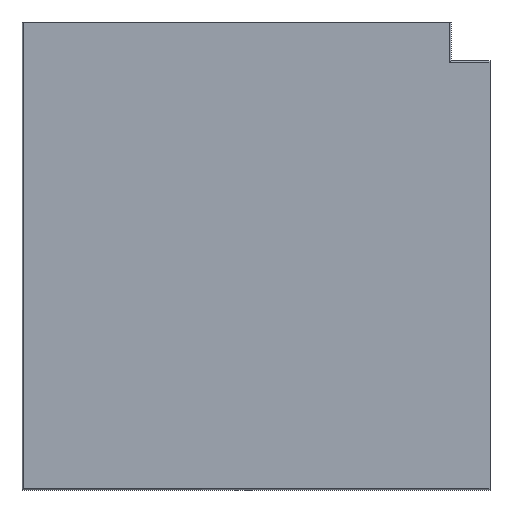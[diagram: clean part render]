
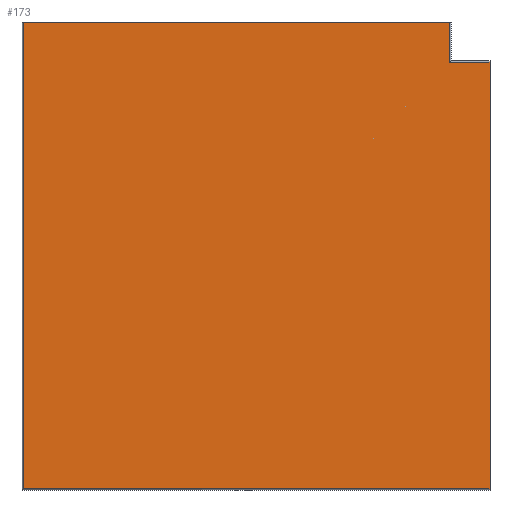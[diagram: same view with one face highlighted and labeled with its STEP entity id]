
A CAD part, left-side view. The second image highlights one B-rep face of the part: STEP entity #173.
In plain terms, the highlighted planar face has unit normal (-1, 0, 0).
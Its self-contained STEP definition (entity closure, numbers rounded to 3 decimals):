
#173=ADVANCED_FACE('',(#305),#231,.F.);
#231=PLANE('',#1552);
#305=FACE_OUTER_BOUND('',#387,.T.);
#387=EDGE_LOOP('',(#992,#993,#994,#995,#996,#997));
#433=LINE('',#1967,#589);
#435=LINE('',#1975,#591);
#510=LINE('',#2294,#666);
#513=LINE('',#2307,#669);
#514=LINE('',#2311,#670);
#515=LINE('',#2318,#671);
#589=VECTOR('',#1626,1.);
#591=VECTOR('',#1630,1.);
#666=VECTOR('',#1773,1.);
#669=VECTOR('',#1780,1.);
#670=VECTOR('',#1785,1.);
#671=VECTOR('',#1786,1.);
#992=ORIENTED_EDGE('',*,*,#1397,.T.);
#993=ORIENTED_EDGE('',*,*,#1294,.T.);
#994=ORIENTED_EDGE('',*,*,#1291,.T.);
#995=ORIENTED_EDGE('',*,*,#1390,.F.);
#996=ORIENTED_EDGE('',*,*,#1396,.F.);
#997=ORIENTED_EDGE('',*,*,#1394,.F.);
#1138=VERTEX_POINT('',#1913);
#1165=VERTEX_POINT('',#1966);
#1166=VERTEX_POINT('',#1972);
#1218=VERTEX_POINT('',#2293);
#1220=VERTEX_POINT('',#2306);
#1221=VERTEX_POINT('',#2308);
#1291=EDGE_CURVE('',#1138,#1165,#433,.T.);
#1294=EDGE_CURVE('',#1166,#1138,#435,.T.);
#1390=EDGE_CURVE('',#1218,#1165,#510,.T.);
#1394=EDGE_CURVE('',#1220,#1221,#513,.T.);
#1396=EDGE_CURVE('',#1221,#1218,#514,.T.);
#1397=EDGE_CURVE('',#1220,#1166,#515,.T.);
#1552=AXIS2_PLACEMENT_3D('',#2325,#1787,#1788);
#1626=DIRECTION('',(0.,0.,1.));
#1630=DIRECTION('',(0.,-1.,0.));
#1773=DIRECTION('',(0.,-1.,0.));
#1780=DIRECTION('',(0.,-1.,0.));
#1785=DIRECTION('',(0.,0.,-1.));
#1786=DIRECTION('',(0.,0.,-1.));
#1787=DIRECTION('',(1.,0.,0.));
#1788=DIRECTION('',(0.,-0.707,0.707));
#1913=CARTESIAN_POINT('',(-22.5,-10.,-119.7));
#1966=CARTESIAN_POINT('',(-22.5,-10.,-10.3));
#1967=CARTESIAN_POINT('',(-22.5,-10.,-65.));
#1972=CARTESIAN_POINT('',(-22.5,109.7,-119.7));
#1975=CARTESIAN_POINT('',(-22.5,49.85,-119.7));
#2293=CARTESIAN_POINT('',(-22.5,0.3,-10.3));
#2294=CARTESIAN_POINT('',(-22.5,-4.85,-10.3));
#2306=CARTESIAN_POINT('',(-22.5,109.7,0.));
#2307=CARTESIAN_POINT('',(-22.5,55.,0.));
#2308=CARTESIAN_POINT('',(-22.5,0.3,0.));
#2311=CARTESIAN_POINT('',(-22.5,0.3,-5.15));
#2318=CARTESIAN_POINT('',(-22.5,109.7,-59.85));
#2325=CARTESIAN_POINT('',(-22.5,55.,-65.));
